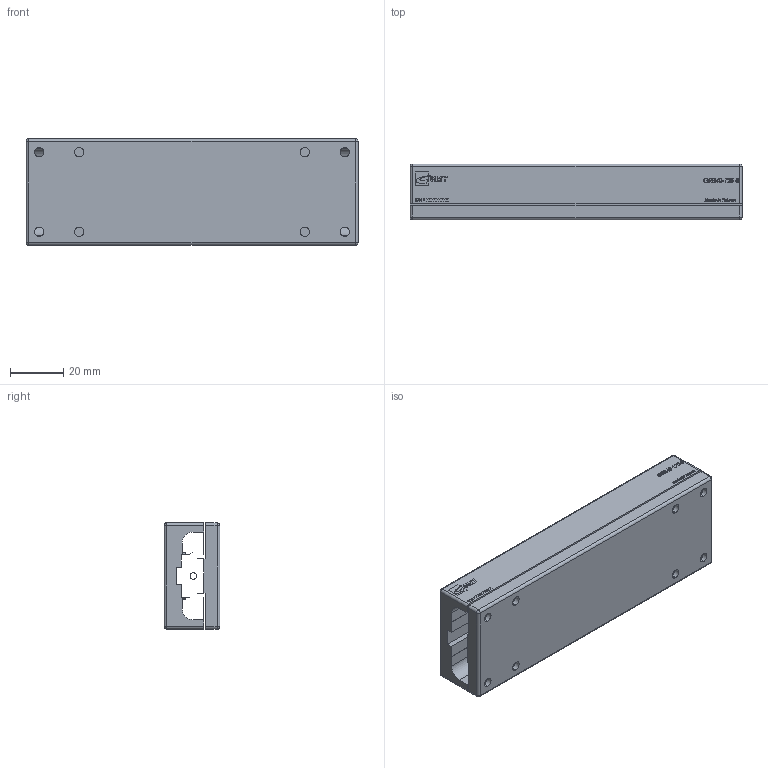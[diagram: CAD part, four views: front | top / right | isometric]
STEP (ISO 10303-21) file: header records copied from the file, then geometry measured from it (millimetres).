
FILE_DESCRIPTION (( 'STEP AP203' ), '1' );
FILE_NAME ('GRB40-125-S.STEP', '2013-12-17T06:30:49', ( '' ), ( '' ), 'SwSTEP 2.0', 'SolidWorks 2013', '' );
FILE_SCHEMA (( 'CONFIG_CONTROL_DESIGN' ));
Length unit declared in the file: millimetre
Products named in the file (1): GRB40-125-S
Bounding box: 125 x 21 x 40.07 mm (x, y, z)
Surface area: 27966.5 mm2 (no closed solid volume)
Topology: 0 solids, 41 shells, 199 faces, 1502 edges, 1308 vertices
Faces by surface type: plane 105, cylinder 83, sphere 8, bspline 3
Entity records: 18091 total; most frequent: CARTESIAN_POINT 7599, ORIENTED_EDGE 1876, DIRECTION 1854, EDGE_CURVE 1494, VERTEX_POINT 1308, VECTOR 888, LINE 888, AXIS2_PLACEMENT_3D 483
